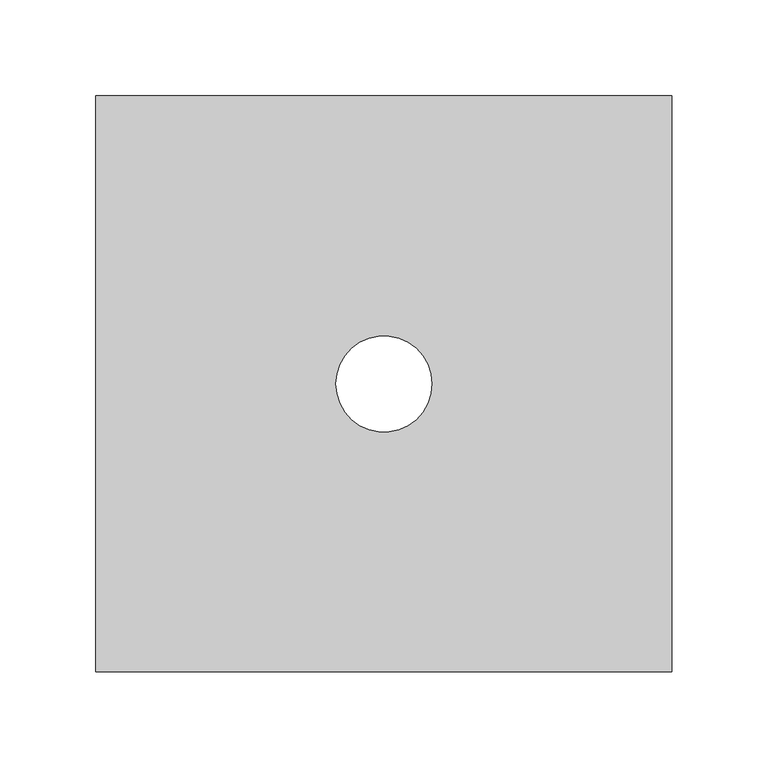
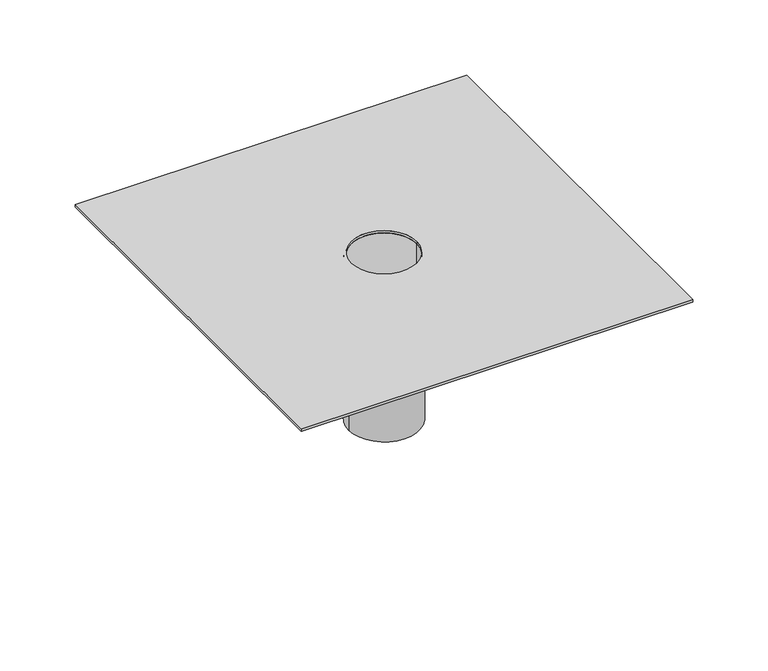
"""IFC4 building model written with IfcOpenShell, lengths in millimetres: proxy geometry, Viaboc Ralo 50mm : Viaboc Ralo 50mm."""

from ifc_helpers import new_model, si_unit, point, frame, origin, origin_with_axes, origin_2d, place, context, project, spatial, polyline, circle_curve, trimmed, segment, composite_curve, outline, extrude, source, transform, mapped, element, save


def entourage_57994eb1(model_context):
    return source(origin(), model_context, "Body", "SweptSolid", [
        extrude(outline(composite_curve([segment(trimmed(circle_curve(origin_2d(), 27.0), [point((27.0, 0.0))], [point((-27.0, 0.0))], False, "CARTESIAN"), True, "CONTINUOUS"), segment(trimmed(circle_curve(origin_2d(), 27.0), [point((-27.0, 0.0))], [point((27.0, 0.0))], False, "CARTESIAN"), True, "CONTINUOUS")], self_intersect=False), holes=[composite_curve([segment(trimmed(circle_curve(origin_2d(), 25.0), [point((25.0, 0.0))], [point((-25.0, 0.0))], True, "CARTESIAN"), True, "CONTINUOUS"), segment(trimmed(circle_curve(origin_2d(), 25.0), [point((-25.0, 0.0))], [point((25.0, 0.0))], True, "CARTESIAN"), True, "CONTINUOUS")], self_intersect=False)]), frame((0.0, 0.0, -133.0), z_axis=(0.0, 0.0, 1.0), x_axis=(1.0, 0.0, 0.0)), (0.0, 0.0, 1.0), 133.0),
        extrude(outline(polyline([(150.0, 150.0), (150.0, -150.0), (-150.0, -150.0), (-150.0, 150.0), (150.0, 150.0)]), holes=[composite_curve([segment(trimmed(circle_curve(origin_2d(), 25.0), [point((-25.0, 0.0))], [point((25.0, 0.0))], True, "CARTESIAN"), True, "CONTINUOUS"), segment(trimmed(circle_curve(origin_2d(), 25.0), [point((25.0, 0.0))], [point((-25.0, 0.0))], True, "CARTESIAN"), True, "CONTINUOUS")], self_intersect=False)]), origin_with_axes(), (0.0, 0.0, 1.0), 2.0),
    ])


if __name__ == "__main__":
    model = new_model("IFC4")
    model_context = context("Model", 3, world=origin())
    ifc_project = project(units=[si_unit("LENGTHUNIT", "METRE", prefix="MILLI")], contexts=[model_context])
    site = spatial("IfcSite", under=ifc_project)
    building = spatial("IfcBuilding", under=site)
    placement = place(None, origin())
    entourage_shape = entourage_57994eb1(model_context)
    element("IfcBuildingElementProxy", 1, Name="Viaboc Ralo 50mm : Viaboc Ralo 50mm", ObjectType="Viaboc Ralo 50mm : Viaboc Ralo 50mm", at=placement, inside=building, context=model_context, shape_type="MappedRepresentation", body=[
        mapped(entourage_shape, transform((0.0, 0.0, 0.0), x_axis=(1.0, 0.0, 0.0), y_axis=(0.0, 1.0, 0.0), z_axis=(0.0, 0.0, 1.0))),
    ])
    save(model, "model.ifc")
